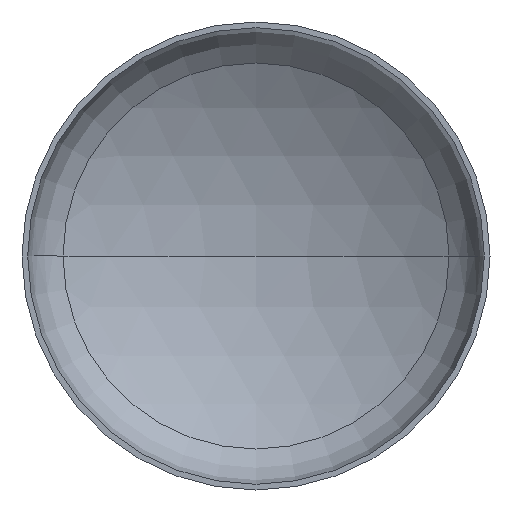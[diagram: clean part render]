
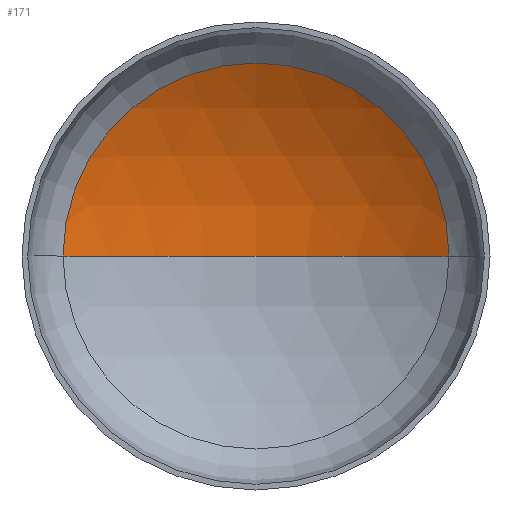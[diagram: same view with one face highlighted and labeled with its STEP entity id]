
A CAD part, front view. The second image highlights one B-rep face of the part: STEP entity #171.
In plain terms, the highlighted spherical face has radius 720 mm.
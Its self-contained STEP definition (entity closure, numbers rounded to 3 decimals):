
#6 = VERTEX_POINT ( 'NONE', #247 ) ;
#8 = ORIENTED_EDGE ( 'NONE', *, *, #344, .F. ) ;
#13 = VERTEX_POINT ( 'NONE', #204 ) ;
#19 = AXIS2_PLACEMENT_3D ( 'NONE', #216, #385, #239 ) ;
#21 = AXIS2_PLACEMENT_3D ( 'NONE', #215, #384, #238 ) ;
#23 = CIRCLE ( 'NONE', #39, 720. ) ;
#39 = AXIS2_PLACEMENT_3D ( 'NONE', #304, #176, #331 ) ;
#48 = EDGE_LOOP ( 'NONE', ( #8, #121, #113 ) ) ;
#53 = AXIS2_PLACEMENT_3D ( 'NONE', #356, #169, #210 ) ;
#113 = ORIENTED_EDGE ( 'NONE', *, *, #340, .T. ) ;
#118 = VERTEX_POINT ( 'NONE', #168 ) ;
#121 = ORIENTED_EDGE ( 'NONE', *, *, #342, .T. ) ;
#168 = CARTESIAN_POINT ( 'NONE',  ( 371.172, 159.963, 0. ) ) ;
#169 = DIRECTION ( 'NONE',  ( 0., 0., -1. ) ) ;
#171 = ADVANCED_FACE ( 'NONE', ( #292 ), #357, .F. ) ;
#176 = DIRECTION ( 'NONE',  ( 0., 0., -1. ) ) ;
#204 = CARTESIAN_POINT ( 'NONE',  ( -371.172, 159.963, 0. ) ) ;
#210 = DIRECTION ( 'NONE',  ( -1., 0., 0. ) ) ;
#215 = CARTESIAN_POINT ( 'NONE',  ( 0., 159.963, 0. ) ) ;
#216 = CARTESIAN_POINT ( 'NONE',  ( 0., -456.99, 0. ) ) ;
#238 = DIRECTION ( 'NONE',  ( 1., 0., 0. ) ) ;
#239 = DIRECTION ( 'NONE',  ( 1., 0., 0. ) ) ;
#247 = CARTESIAN_POINT ( 'NONE',  ( 0., 263.01, 0. ) ) ;
#267 = CIRCLE ( 'NONE', #21, 371.172 ) ;
#292 = FACE_OUTER_BOUND ( 'NONE', #48, .T. ) ;
#304 = CARTESIAN_POINT ( 'NONE',  ( 0., -456.99, 0. ) ) ;
#331 = DIRECTION ( 'NONE',  ( -1., 0., 0. ) ) ;
#340 = EDGE_CURVE ( 'NONE', #118, #13, #267, .T. ) ;
#342 = EDGE_CURVE ( 'NONE', #6, #118, #23, .T. ) ;
#344 = EDGE_CURVE ( 'NONE', #6, #13, #389, .T. ) ;
#356 = CARTESIAN_POINT ( 'NONE',  ( 0., -456.99, 0. ) ) ;
#357 = SPHERICAL_SURFACE ( 'NONE', #53, 720. ) ;
#384 = DIRECTION ( 'NONE',  ( 0., -1., 0. ) ) ;
#385 = DIRECTION ( 'NONE',  ( 0., 0., 1. ) ) ;
#389 = CIRCLE ( 'NONE', #19, 720. ) ;
